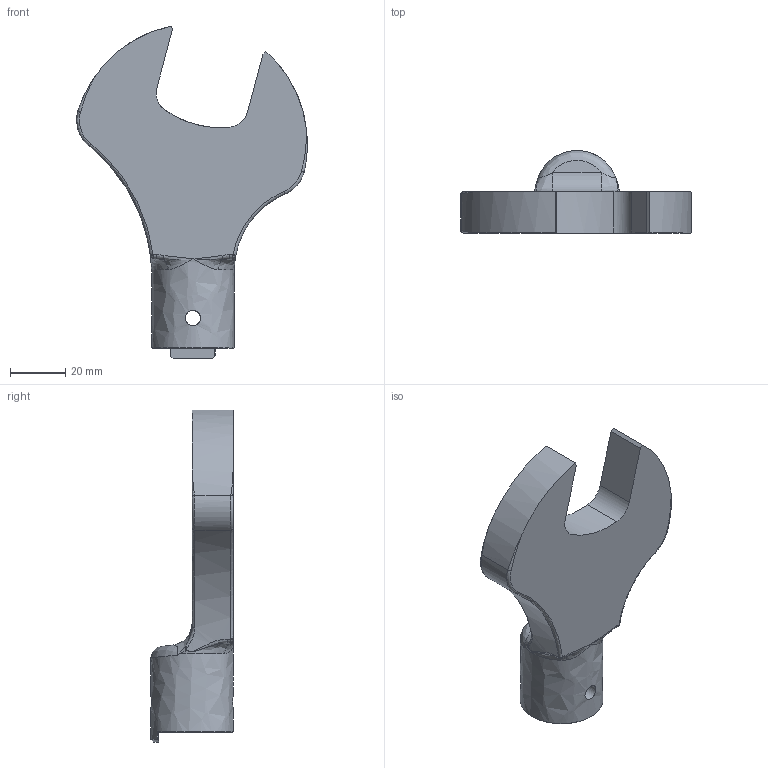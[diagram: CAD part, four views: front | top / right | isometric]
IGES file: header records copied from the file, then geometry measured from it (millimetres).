
Global section: file name: SH22DX34; native system: Autodesk Inventor 2016; preprocessor: unknown; author: Q600; date: 20151029.174658; units: millimetre
Bounding box: 83.69 x 30 x 120.44 mm (x, y, z)
Volume: 71562.5 mm3; surface area: 17888.8 mm2
Topology: 1 solids, 1 shells, 75 faces, 200 edges, 116 vertices
Faces by surface type: bspline 75
